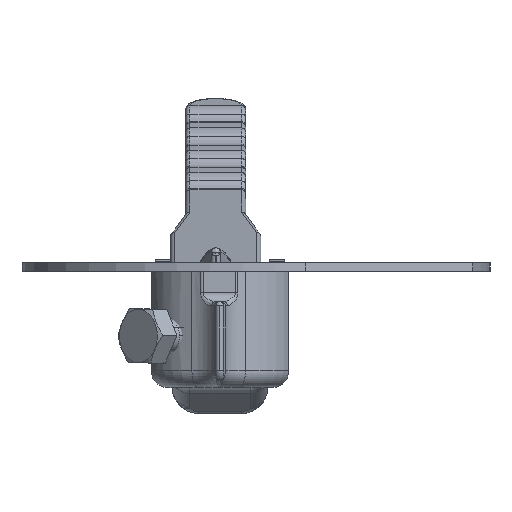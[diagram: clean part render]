
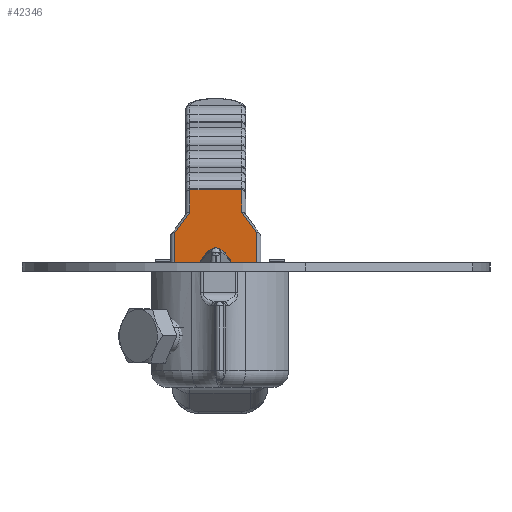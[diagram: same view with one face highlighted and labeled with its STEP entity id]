
A CAD part, left-side view. The second image highlights one B-rep face of the part: STEP entity #42346.
In plain terms, the highlighted planar face has unit normal (-0.259, 0, 0.966) as drawn and (-0.259, 0.966, 0) by its records, which use the part's own axes.
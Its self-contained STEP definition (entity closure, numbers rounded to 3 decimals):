
#5214 = ORIENTED_EDGE ( 'NONE', *, *, #135552, .F. ) ;
#10414 = DIRECTION ( 'NONE',  ( 0.259, -0.966, 0. ) ) ;
#10985 = CARTESIAN_POINT ( 'NONE',  ( 6.04, 11.971, 9.5 ) ) ;
#16596 = VECTOR ( 'NONE', #17145, 1000. ) ;
#17099 = VECTOR ( 'NONE', #197585, 1000. ) ;
#17145 = DIRECTION ( 'NONE',  ( -0.966, -0.259, 0. ) ) ;
#36787 = DIRECTION ( 'NONE',  ( 0.966, 0.259, 0. ) ) ;
#38239 = CARTESIAN_POINT ( 'NONE',  ( 57.589, 25.784, -6. ) ) ;
#42346 = ADVANCED_FACE ( 'NONE', ( #42970 ), #194117, .F. ) ;
#42970 = FACE_OUTER_BOUND ( 'NONE', #173309, .T. ) ;
#49894 = VECTOR ( 'NONE', #182138, 1000. ) ;
#50397 = VERTEX_POINT ( 'NONE', #266323 ) ;
#52639 = VERTEX_POINT ( 'NONE', #10985 ) ;
#53635 = CARTESIAN_POINT ( 'NONE',  ( 6.04, 11.971, 10.5 ) ) ;
#53777 = VERTEX_POINT ( 'NONE', #85238 ) ;
#59426 = CARTESIAN_POINT ( 'NONE',  ( 76.863, 30.948, 6. ) ) ;
#70124 = VERTEX_POINT ( 'NONE', #272102 ) ;
#73114 = VECTOR ( 'NONE', #75099, 1000. ) ;
#74140 = CARTESIAN_POINT ( 'NONE',  ( 39.922, 21.05, -9.518 ) ) ;
#75099 = DIRECTION ( 'NONE',  ( -0.948, -0.254, -0.19 ) ) ;
#85238 = CARTESIAN_POINT ( 'NONE',  ( 6.04, 11.971, -9.5 ) ) ;
#87447 = CARTESIAN_POINT ( 'NONE',  ( 7.084, 12.251, 16.092 ) ) ;
#95619 = LINE ( 'NONE', #38239, #16596 ) ;
#96860 = CARTESIAN_POINT ( 'NONE',  ( 40.013, 21.074, -9.5 ) ) ;
#102846 = EDGE_CURVE ( 'NONE', #221056, #70124, #266137, .T. ) ;
#103460 = ORIENTED_EDGE ( 'NONE', *, *, #233798, .T. ) ;
#118436 = ORIENTED_EDGE ( 'NONE', *, *, #289366, .T. ) ;
#132559 = LINE ( 'NONE', #250438, #49894 ) ;
#133648 = DIRECTION ( 'NONE',  ( 0.948, 0.254, -0.19 ) ) ;
#134168 = LINE ( 'NONE', #74140, #73114 ) ;
#135552 = EDGE_CURVE ( 'NONE', #52639, #53777, #132559, .T. ) ;
#137251 = EDGE_CURVE ( 'NONE', #239054, #53777, #218632, .T. ) ;
#143856 = DIRECTION ( 'NONE',  ( -0.966, -0.259, 0. ) ) ;
#148226 = LINE ( 'NONE', #242622, #162755 ) ;
#157644 = VECTOR ( 'NONE', #143856, 1000. ) ;
#158752 = ORIENTED_EDGE ( 'NONE', *, *, #229598, .T. ) ;
#162755 = VECTOR ( 'NONE', #243615, 1000. ) ;
#166295 = EDGE_CURVE ( 'NONE', #240190, #50397, #95619, .T. ) ;
#168100 = DIRECTION ( 'NONE',  ( 0.966, 0.259, 0. ) ) ;
#173309 = EDGE_LOOP ( 'NONE', ( #5214, #103460, #199563, #118436, #270184, #174454, #158752, #267054 ) ) ;
#174454 = ORIENTED_EDGE ( 'NONE', *, *, #166295, .T. ) ;
#179707 = VECTOR ( 'NONE', #133648, 1000. ) ;
#182138 = DIRECTION ( 'NONE',  ( 0., 0., -1. ) ) ;
#190008 = CARTESIAN_POINT ( 'NONE',  ( 6.04, 11.971, -9.5 ) ) ;
#194117 = PLANE ( 'NONE',  #277481 ) ;
#194798 = CARTESIAN_POINT ( 'NONE',  ( 40.013, 21.074, 9.5 ) ) ;
#195598 = CARTESIAN_POINT ( 'NONE',  ( 6.04, 11.971, 6. ) ) ;
#197585 = DIRECTION ( 'NONE',  ( 0.966, 0.259, 0. ) ) ;
#199563 = ORIENTED_EDGE ( 'NONE', *, *, #102846, .T. ) ;
#209385 = VECTOR ( 'NONE', #36787, 1000. ) ;
#218632 = LINE ( 'NONE', #190008, #157644 ) ;
#221056 = VERTEX_POINT ( 'NONE', #194798 ) ;
#221917 = LINE ( 'NONE', #195598, #17099 ) ;
#229598 = EDGE_CURVE ( 'NONE', #50397, #239054, #134168, .T. ) ;
#233131 = EDGE_CURVE ( 'NONE', #254517, #240190, #148226, .T. ) ;
#233798 = EDGE_CURVE ( 'NONE', #52639, #221056, #284810, .T. ) ;
#237316 = CARTESIAN_POINT ( 'NONE',  ( 76.863, 30.948, -6. ) ) ;
#239054 = VERTEX_POINT ( 'NONE', #96860 ) ;
#240190 = VERTEX_POINT ( 'NONE', #237316 ) ;
#242622 = CARTESIAN_POINT ( 'NONE',  ( 76.863, 30.948, 10.5 ) ) ;
#243615 = DIRECTION ( 'NONE',  ( 0., 0., -1. ) ) ;
#250438 = CARTESIAN_POINT ( 'NONE',  ( 6.04, 11.971, 10.5 ) ) ;
#254517 = VERTEX_POINT ( 'NONE', #59426 ) ;
#266137 = LINE ( 'NONE', #87447, #179707 ) ;
#266323 = CARTESIAN_POINT ( 'NONE',  ( 57.496, 25.759, -6. ) ) ;
#267054 = ORIENTED_EDGE ( 'NONE', *, *, #137251, .T. ) ;
#270184 = ORIENTED_EDGE ( 'NONE', *, *, #233131, .T. ) ;
#272102 = CARTESIAN_POINT ( 'NONE',  ( 57.496, 25.759, 6. ) ) ;
#277481 = AXIS2_PLACEMENT_3D ( 'NONE', #53635, #10414, #168100 ) ;
#284810 = LINE ( 'NONE', #285859, #209385 ) ;
#285859 = CARTESIAN_POINT ( 'NONE',  ( 6.04, 11.971, 9.5 ) ) ;
#289366 = EDGE_CURVE ( 'NONE', #70124, #254517, #221917, .T. ) ;
